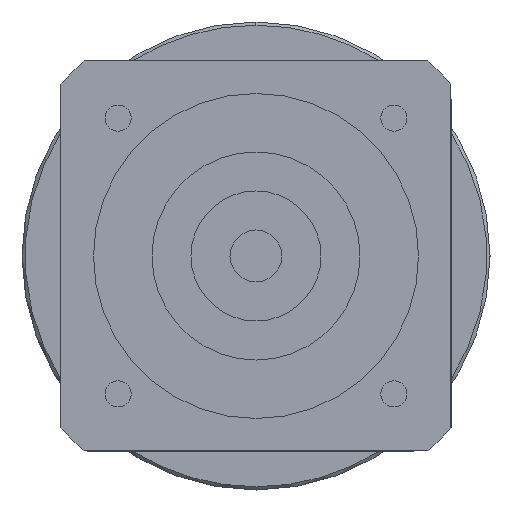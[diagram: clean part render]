
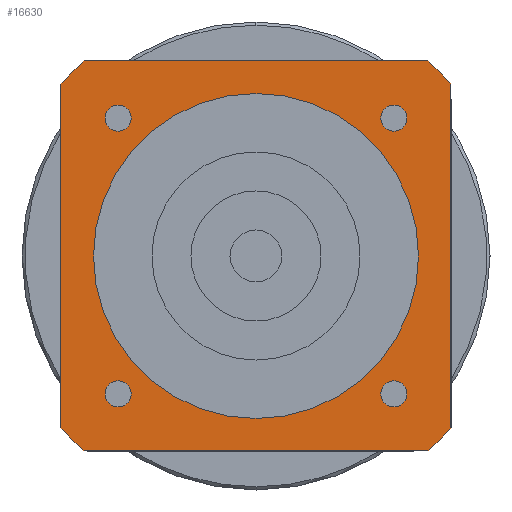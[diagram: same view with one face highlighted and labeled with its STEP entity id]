
A CAD part, left-side view. The second image highlights one B-rep face of the part: STEP entity #16630.
In plain terms, the highlighted planar face has unit normal (-1, 0, 0) as drawn and (0, 0, -1) by its records, which use the part's own axes.
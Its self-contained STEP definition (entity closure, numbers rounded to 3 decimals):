
#12050=CARTESIAN_POINT('',(-30.,-26.458,-91.5));
#12060=VERTEX_POINT('',#12050);
#12220=CARTESIAN_POINT('',(-26.458,-30.,-91.5));
#12230=VERTEX_POINT('',#12220);
#12260=CARTESIAN_POINT('',(0.,0.,
-91.5));
#12270=DIRECTION('',(0.,0.,1.));
#12280=DIRECTION('',(0.,-1.,0.));
#12290=AXIS2_PLACEMENT_3D('',#12260,#12270,#12280);
#12300=CIRCLE('',#12290,40.);
#12310=EDGE_CURVE('',#12060,#12230,#12300,.T.);
#14460=CARTESIAN_POINT('',(26.458,30.,-91.5));
#14470=VERTEX_POINT('',#14460);
#14650=CARTESIAN_POINT('',(-26.458,30.,-91.5));
#14660=VERTEX_POINT('',#14650);
#14690=CARTESIAN_POINT('',(30.,30.,-91.5));
#14700=DIRECTION('',(-1.,0.,0.));
#14710=VECTOR('',#14700,1000.);
#14720=LINE('',#14690,#14710);
#14730=EDGE_CURVE('',#14470,#14660,#14720,.T.);
#14970=CARTESIAN_POINT('',(-30.,26.458,-91.5));
#14980=VERTEX_POINT('',#14970);
#15010=CARTESIAN_POINT('',(0.,0.,
-91.5));
#15020=DIRECTION('',(0.,0.,1.));
#15030=DIRECTION('',(0.,-1.,0.));
#15040=AXIS2_PLACEMENT_3D('',#15010,#15020,#15030);
#15050=CIRCLE('',#15040,40.);
#15060=EDGE_CURVE('',#14660,#14980,#15050,.T.);
#15200=CARTESIAN_POINT('',(-30.,30.,-91.5));
#15210=DIRECTION('',(0.,0.,1.));
#15220=DIRECTION('',(-1.,0.,0.));
#15230=AXIS2_PLACEMENT_3D('',#15200,#15210,#15220);
#15240=PLANE('',#15230);
#15250=CARTESIAN_POINT('',(21.213,-21.213,-91.5));
#15260=DIRECTION('',(0.,0.,-1.));
#15270=DIRECTION('',(1.,0.,0.));
#15280=AXIS2_PLACEMENT_3D('',#15250,#15260,#15270);
#15290=CIRCLE('',#15280,2.);
#15300=CARTESIAN_POINT('',(23.213,-21.213,-91.5));
#15310=VERTEX_POINT('',#15300);
#15320=CARTESIAN_POINT('',(21.213,-23.213,-91.5));
#15330=VERTEX_POINT('',#15320);
#15340=EDGE_CURVE('',#15310,#15330,#15290,.T.);
#15350=ORIENTED_EDGE('',*,*,#15340,.F.);
#15360=CARTESIAN_POINT('',(21.213,-19.213,-91.5));
#15370=VERTEX_POINT('',#15360);
#15380=EDGE_CURVE('',#15330,#15370,#15290,.T.);
#15390=ORIENTED_EDGE('',*,*,#15380,.F.);
#15400=EDGE_CURVE('',#15370,#15310,#15290,.T.);
#15410=ORIENTED_EDGE('',*,*,#15400,.F.);
#15420=EDGE_LOOP('',(#15410,#15390,#15350));
#15430=FACE_BOUND('',#15420,.T.);
#15440=CARTESIAN_POINT('',(21.213,21.213,-91.5));
#15450=DIRECTION('',(0.,0.,-1.));
#15460=DIRECTION('',(0.,1.,0.));
#15470=AXIS2_PLACEMENT_3D('',#15440,#15450,#15460);
#15480=CIRCLE('',#15470,2.);
#15490=CARTESIAN_POINT('',(21.213,23.213,-91.5));
#15500=VERTEX_POINT('',#15490);
#15510=CARTESIAN_POINT('',(23.213,21.213,-91.5));
#15520=VERTEX_POINT('',#15510);
#15530=EDGE_CURVE('',#15500,#15520,#15480,.T.);
#15540=ORIENTED_EDGE('',*,*,#15530,.F.);
#15550=CARTESIAN_POINT('',(19.213,21.213,-91.5));
#15560=VERTEX_POINT('',#15550);
#15570=EDGE_CURVE('',#15520,#15560,#15480,.T.);
#15580=ORIENTED_EDGE('',*,*,#15570,.F.);
#15590=EDGE_CURVE('',#15560,#15500,#15480,.T.);
#15600=ORIENTED_EDGE('',*,*,#15590,.F.);
#15610=EDGE_LOOP('',(#15600,#15580,#15540));
#15620=FACE_BOUND('',#15610,.T.);
#15630=CARTESIAN_POINT('',(-21.213,21.213,-91.5));
#15640=DIRECTION('',(0.,0.,-1.));
#15650=DIRECTION('',(-1.,0.,0.));
#15660=AXIS2_PLACEMENT_3D('',#15630,#15640,#15650);
#15670=CIRCLE('',#15660,2.);
#15680=CARTESIAN_POINT('',(-23.213,21.213,-91.5));
#15690=VERTEX_POINT('',#15680);
#15700=CARTESIAN_POINT('',(-21.213,23.213,-91.5));
#15710=VERTEX_POINT('',#15700);
#15720=EDGE_CURVE('',#15690,#15710,#15670,.T.);
#15730=ORIENTED_EDGE('',*,*,#15720,.F.);
#15740=CARTESIAN_POINT('',(-21.213,19.213,-91.5));
#15750=VERTEX_POINT('',#15740);
#15760=EDGE_CURVE('',#15710,#15750,#15670,.T.);
#15770=ORIENTED_EDGE('',*,*,#15760,.F.);
#15780=EDGE_CURVE('',#15750,#15690,#15670,.T.);
#15790=ORIENTED_EDGE('',*,*,#15780,.F.);
#15800=EDGE_LOOP('',(#15790,#15770,#15730));
#15810=FACE_BOUND('',#15800,.T.);
#15820=CARTESIAN_POINT('',(-21.213,-21.213,-91.5));
#15830=DIRECTION('',(0.,0.,-1.));
#15840=DIRECTION('',(0.,-1.,0.));
#15850=AXIS2_PLACEMENT_3D('',#15820,#15830,#15840);
#15860=CIRCLE('',#15850,2.);
#15870=CARTESIAN_POINT('',(-21.213,-23.213,-91.5));
#15880=VERTEX_POINT('',#15870);
#15890=CARTESIAN_POINT('',(-23.213,-21.213,-91.5));
#15900=VERTEX_POINT('',#15890);
#15910=EDGE_CURVE('',#15880,#15900,#15860,.T.);
#15920=ORIENTED_EDGE('',*,*,#15910,.F.);
#15930=CARTESIAN_POINT('',(-19.213,-21.213,-91.5));
#15940=VERTEX_POINT('',#15930);
#15950=EDGE_CURVE('',#15900,#15940,#15860,.T.);
#15960=ORIENTED_EDGE('',*,*,#15950,.F.);
#15970=EDGE_CURVE('',#15940,#15880,#15860,.T.);
#15980=ORIENTED_EDGE('',*,*,#15970,.F.);
#15990=EDGE_LOOP('',(#15980,#15960,#15920));
#16000=FACE_BOUND('',#15990,.T.);
#16010=ORIENTED_EDGE('',*,*,#12310,.F.);
#16020=CARTESIAN_POINT('',(-30.,-30.,-91.5));
#16030=DIRECTION('',(1.,0.,0.));
#16040=VECTOR('',#16030,1000.);
#16050=LINE('',#16020,#16040);
#16060=CARTESIAN_POINT('',(26.458,-30.,-91.5));
#16070=VERTEX_POINT('',#16060);
#16080=EDGE_CURVE('',#12230,#16070,#16050,.T.);
#16090=ORIENTED_EDGE('',*,*,#16080,.F.);
#16100=CARTESIAN_POINT('',(0.,0.,
-91.5));
#16110=DIRECTION('',(0.,0.,1.));
#16120=DIRECTION('',(0.,-1.,0.));
#16130=AXIS2_PLACEMENT_3D('',#16100,#16110,#16120);
#16140=CIRCLE('',#16130,40.);
#16150=CARTESIAN_POINT('',(30.,-26.458,-91.5));
#16160=VERTEX_POINT('',#16150);
#16170=EDGE_CURVE('',#16070,#16160,#16140,.T.);
#16180=ORIENTED_EDGE('',*,*,#16170,.F.);
#16190=CARTESIAN_POINT('',(30.,-30.,-91.5));
#16200=DIRECTION('',(0.,1.,0.));
#16210=VECTOR('',#16200,1000.);
#16220=LINE('',#16190,#16210);
#16230=CARTESIAN_POINT('',(30.,26.458,-91.5));
#16240=VERTEX_POINT('',#16230);
#16250=EDGE_CURVE('',#16160,#16240,#16220,.T.);
#16260=ORIENTED_EDGE('',*,*,#16250,.F.);
#16270=CARTESIAN_POINT('',(0.,0.,
-91.5));
#16280=DIRECTION('',(0.,0.,1.));
#16290=DIRECTION('',(0.,-1.,0.));
#16300=AXIS2_PLACEMENT_3D('',#16270,#16280,#16290);
#16310=CIRCLE('',#16300,40.);
#16320=EDGE_CURVE('',#16240,#14470,#16310,.T.);
#16330=ORIENTED_EDGE('',*,*,#16320,.F.);
#16340=ORIENTED_EDGE('',*,*,#14730,.F.);
#16350=ORIENTED_EDGE('',*,*,#15060,.F.);
#16360=CARTESIAN_POINT('',(-30.,30.,-91.5));
#16370=DIRECTION('',(0.,-1.,0.));
#16380=VECTOR('',#16370,1000.);
#16390=LINE('',#16360,#16380);
#16400=EDGE_CURVE('',#14980,#12060,#16390,.T.);
#16410=ORIENTED_EDGE('',*,*,#16400,.F.);
#16420=EDGE_LOOP('',(#16410,#16350,#16340,#16330,#16260,#16180,#16090,
#16010));
#16430=FACE_OUTER_BOUND('',#16420,.T.);
#16440=CARTESIAN_POINT('',(0.,0.,
-91.5));
#16450=DIRECTION('',(0.,0.,1.));
#16460=DIRECTION('',(0.,-1.,0.));
#16470=AXIS2_PLACEMENT_3D('',#16440,#16450,#16460);
#16480=CIRCLE('',#16470,25.);
#16490=CARTESIAN_POINT('',(25.,0.,-91.5));
#16500=VERTEX_POINT('',#16490);
#16510=CARTESIAN_POINT('',(-25.,0.,-91.5));
#16520=VERTEX_POINT('',#16510);
#16530=EDGE_CURVE('',#16500,#16520,#16480,.T.);
#16540=ORIENTED_EDGE('',*,*,#16530,.T.);
#16550=CARTESIAN_POINT('',(0.,-25.,-91.5));
#16560=VERTEX_POINT('',#16550);
#16570=EDGE_CURVE('',#16560,#16500,#16480,.T.);
#16580=ORIENTED_EDGE('',*,*,#16570,.T.);
#16590=EDGE_CURVE('',#16520,#16560,#16480,.T.);
#16600=ORIENTED_EDGE('',*,*,#16590,.T.);
#16610=EDGE_LOOP('',(#16600,#16580,#16540));
#16620=FACE_BOUND('',#16610,.T.);
#16630=ADVANCED_FACE('',(#15430,#15620,#15810,#16000,#16430,#16620),
#15240,.F.);
